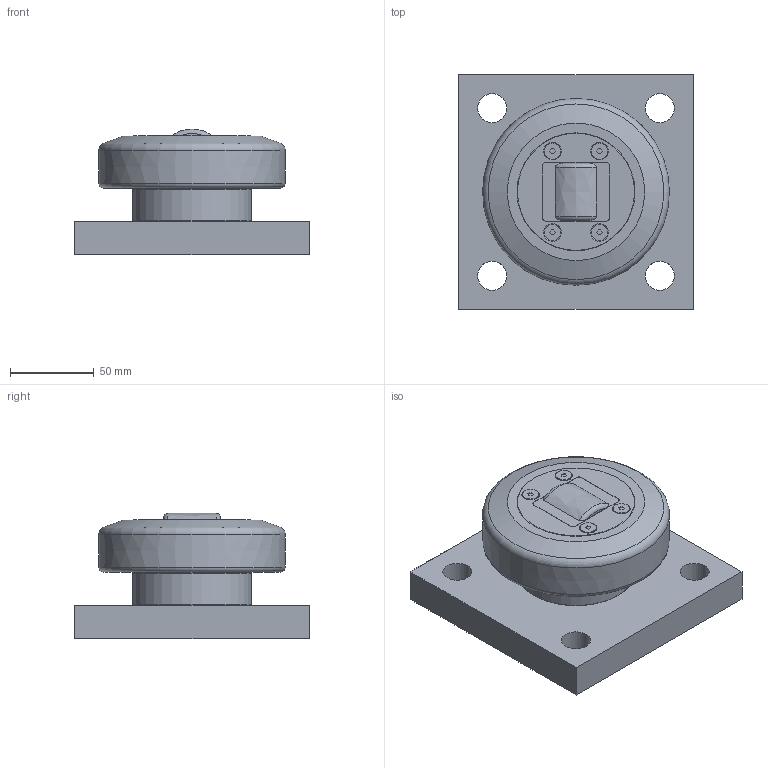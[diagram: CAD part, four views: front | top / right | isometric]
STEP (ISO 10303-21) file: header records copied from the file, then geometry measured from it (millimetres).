
FILE_DESCRIPTION(/* description */ ('-','CAx-IF Rec.Pracs.---Representation and Presentation of Product Manufacturing Information (PMI)---4.0---2014-10-13'),/* implementation_level */ '2;1');
FILE_NAME(/* name */ 'c:\temp\e0cbbd5c-e417-48f8-a13b-3ccbb5ac7771\32f60c97-8de8-45dc-bb7e-e4dea01446f1.stp',/* time_stamp */ '2020-04-01T16:49:21+02:00',/* author */ ('-'),/* organization */ ('NTI CADcenter A/S'),/* preprocessor_version */ 'ST-DEVELOPER v18',/* originating_system */ 'Autodesk Inventor 2020',/* authorisation */ '-');
FILE_SCHEMA (('AP242_MANAGED_MODEL_BASED_3D_ENGINEERING_MIM_LF { 1 0 10303 442 1 1 4 }'));
Length unit declared in the file: millimetre
Products named in the file (1): XTR 110.0200 BQ1000_Kontur
Bounding box: 140 x 140 x 75.1 mm (x, y, z)
Volume: 742771 mm3; surface area: 77947.5 mm2
Topology: 1 solids, 1 shells, 81 faces, 199 edges, 138 vertices
Faces by surface type: plane 53, cylinder 14, cone 8, torus 4, bspline 2
Full cylindrical faces by diameter (mm): 9.75 x4, 17.294 x4, 70.5 x1, 71 x1
Entity records: 2551 total; most frequent: CARTESIAN_POINT 499, DIRECTION 426, ORIENTED_EDGE 398, EDGE_CURVE 199, AXIS2_PLACEMENT_3D 153, VERTEX_POINT 138, LINE 120, VECTOR 120
